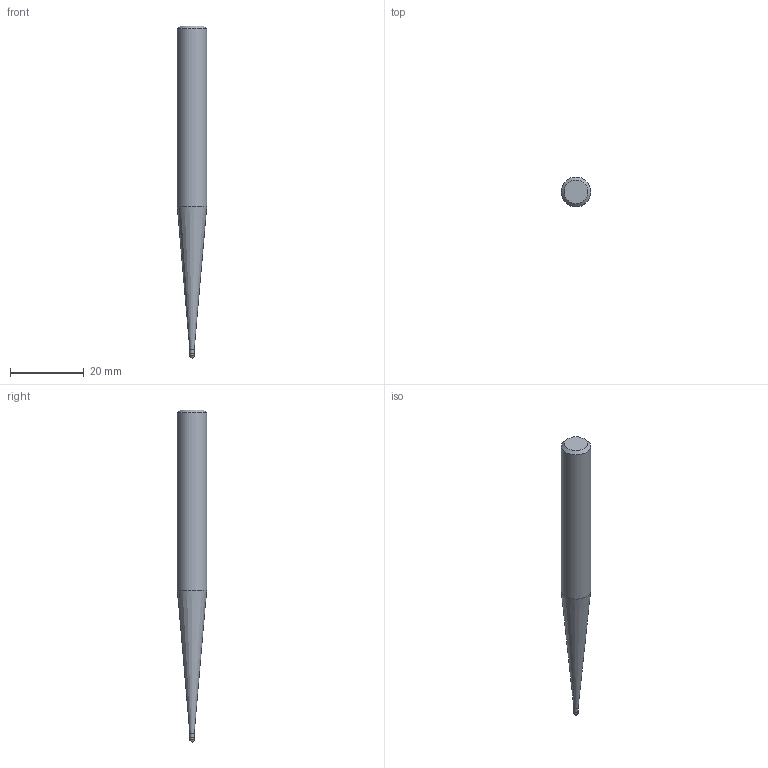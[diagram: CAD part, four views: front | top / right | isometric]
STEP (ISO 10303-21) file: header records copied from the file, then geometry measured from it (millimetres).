
FILE_DESCRIPTION((''),'2;1');
FILE_NAME('C:\Users\nsx150\AppData\Local\Temp\Mastercam 2021\SNAKH10GOD\TEMP.step','2021-10-21T13:32:48',(''),(''),'STEP Write','Mastercam 2021 ... CNC Software, Inc.','');
FILE_SCHEMA(('AUTOMOTIVE_DESIGN'));
Length unit declared in the file: millimetre
Products named in the file (1): None
Bounding box: 8 x 8 x 90 mm (x, y, z)
Volume: 3208.6 mm3; surface area: 1837.3 mm2
Topology: 2 solids, 2 shells, 9 faces, 14 edges, 8 vertices
Faces by surface type: plane 3, cylinder 3, cone 2, sphere 1
Full cylindrical faces by diameter (mm): 1.185 x1, 1.2 x1, 8 x1
Entity records: 211 total; most frequent: DIRECTION 36, CARTESIAN_POINT 25, AXIS2_PLACEMENT_3D 18, ORIENTED_EDGE 14, EDGE_LOOP 14, STYLED_ITEM 12, ADVANCED_FACE 9, FACE_BOUND 8
